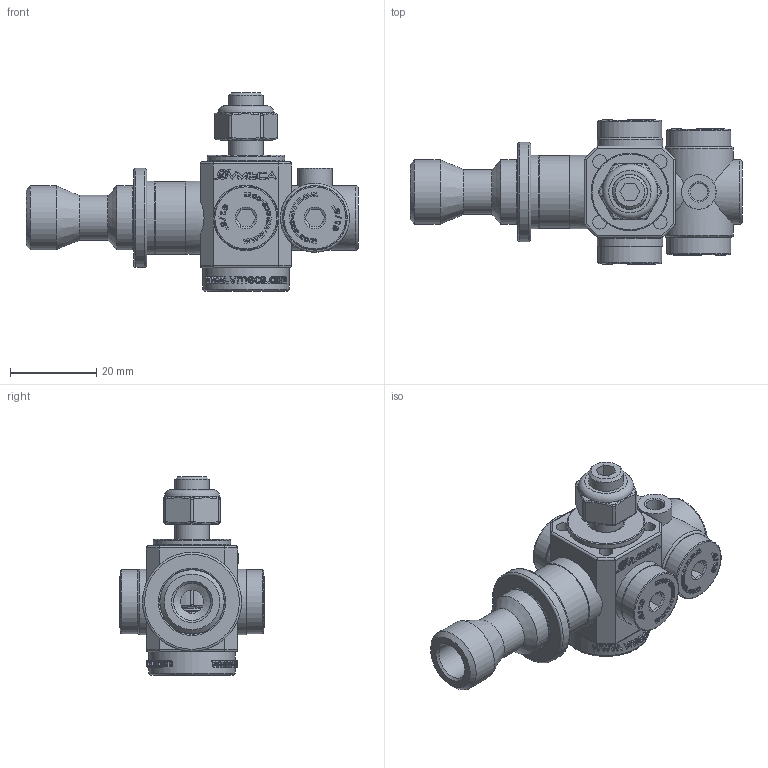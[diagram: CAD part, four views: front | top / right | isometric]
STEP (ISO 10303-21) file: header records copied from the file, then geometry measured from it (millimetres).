
FILE_DESCRIPTION( ( 'Unknown' ), '1' );
FILE_NAME( 'D:/紫賊(霞奢)/3D(Dimension)/Vacuum Speed Module/VSM/VSM 202 (N) - MT8.stp', 'Unknown', ( 'Unknown' ), ( 'Unknown' ), 'PSStep 10.0', 'Unknown', ' ' );
FILE_SCHEMA( ( 'automotive_design' ) );
Length unit declared in the file: millimetre
Products named in the file (4): Assem1; Plug18_New_PPS; M( )8_Assy; VSM 202_Assy
Bounding box: 77 x 33.5 x 46 mm (x, y, z)
Volume: 39596 mm3; surface area: 29872.8 mm2
Topology: 7 solids, 9 shells, 2531 faces, 6340 edges, 4143 vertices
Faces by surface type: plane 1519, cylinder 372, bspline 308, extrusion 217, torus 57, cone 44, revolution 14
Full cylindrical faces by diameter (mm): 0.23 x2, 3.242 x16, 4.134 x4, 5.3 x2, 5.4 x2, 8 x6, 8.215 x2, 8.4 x2, 8.566 x38, 8.8 x2, 9.147 x2, 9.8 x2, 10.4 x2, 10.8 x2, 12 x2, 12.2 x4, 12.8 x7, 12.917 x4, 14.8 x7, 14.9 x4, 14.95 x2, 15 x6, 15.2 x4, 16.8 x2, 17 x4, 18 x2, 20 x2, 23 x2
Entity records: 49984 total; most frequent: CARTESIAN_POINT 23438, ORIENTED_EDGE 5482, DIRECTION 4063, EDGE_CURVE 2741, VERTEX_POINT 1853, VECTOR 1568, LINE 1475, EDGE_LOOP 1424
